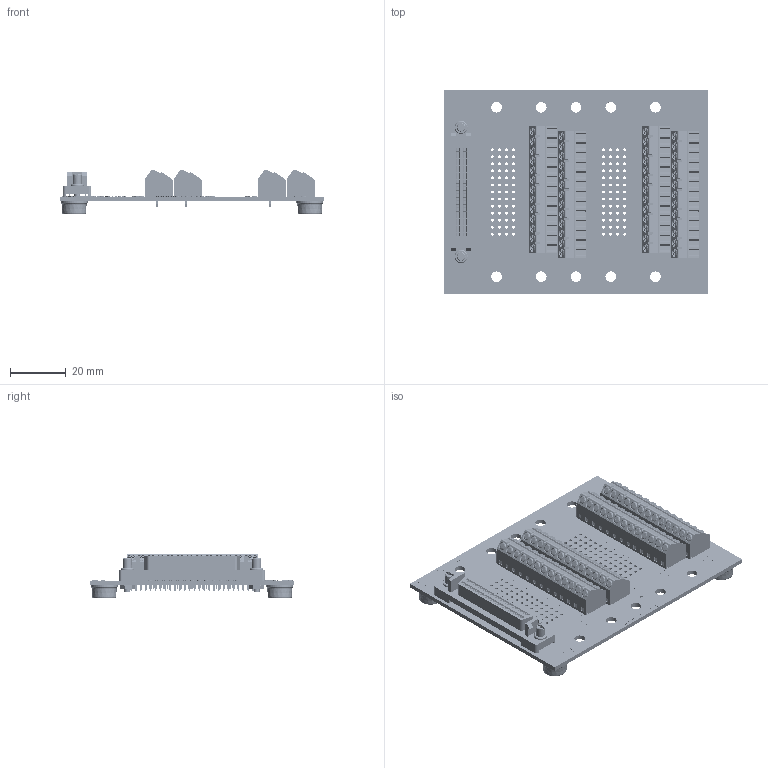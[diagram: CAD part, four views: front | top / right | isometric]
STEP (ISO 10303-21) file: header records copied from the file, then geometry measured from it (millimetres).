
FILE_DESCRIPTION (( 'STEP AP214' ), '1' );
FILE_NAME ('brkbdp50fv1-sb-ft_rev_a.step', '2018-03-12T02:37:29', ( '' ), ( '' ), 'SwSTEP 2.0', 'SolidWorks 2017', '' );
FILE_SCHEMA (( 'AUTOMOTIVE_DESIGN' ));
Length unit declared in the file: inch
Products named in the file (8): HPDB Female Vertical 50 Pin; RubberFoot; Eurostyle PCB Terminal 3; #2-56 Nut_91841A003; Eurostyle PCB Terminal 2; brkbdp50fv1-sb-ft_rev_a; #2-56 Jackscrew; BRKBDP50FV1-SB Board
Assembly tree (30 placements, depth 2):
  brkbdp50fv1-sb-ft_rev_a
    BRKBDP50FV1-SB Board
    #2-56 Jackscrew  x2
    #2-56 Nut_91841A003  x2
    Eurostyle PCB Terminal 2  x8
    Eurostyle PCB Terminal 3  x12
    HPDB Female Vertical 50 Pin
    RubberFoot  x4
Bounding box: 95.25 x 73.66 x 16.11 mm (x, y, z)
Volume: 14692.4 mm3; surface area: 34582.6 mm2
Topology: 10 solids, 70 shells, 8285 faces, 21815 edges, 14392 vertices
Faces by surface type: plane 6064, bspline 1475, cylinder 632, cone 106, torus 8
Full cylindrical faces by diameter (mm): 0.4 x40, 0.762 x50, 1.016 x104, 1.041 x52, 1.613 x2, 1.783 x2, 1.9 x52, 1.95 x52, 2.184 x2, 2.337 x2, 2.88 x52, 2.95 x52, 3.175 x2, 3.81 x10, 4.699 x2, 9.525 x4
Entity records: 205191 total; most frequent: CARTESIAN_POINT 86466, ORIENTED_EDGE 18936, DIRECTION 13225, EDGE_CURVE 9474, VECTOR 6669, LINE 6669, VERTEX_POINT 6461, EDGE_LOOP 4819
